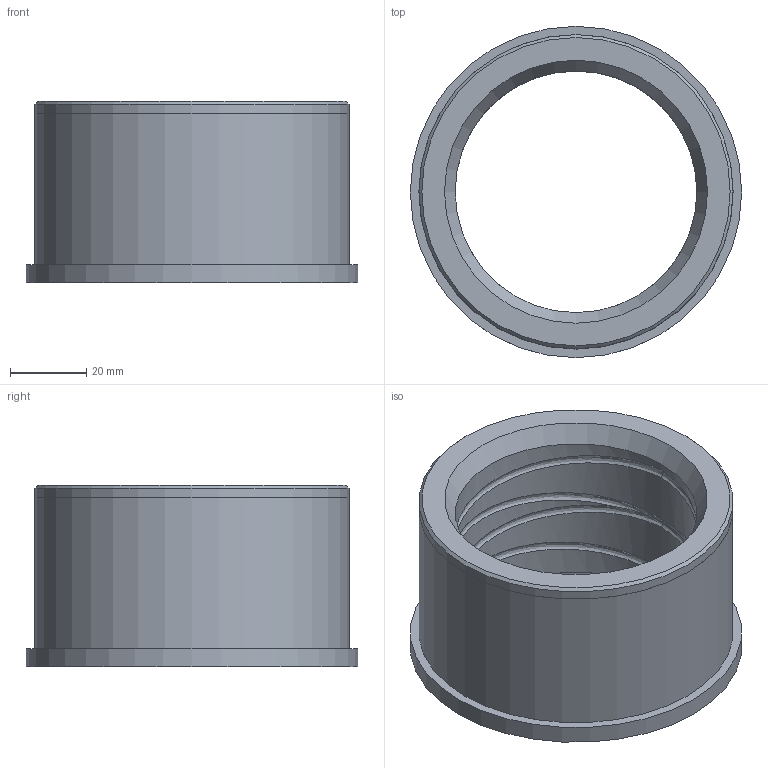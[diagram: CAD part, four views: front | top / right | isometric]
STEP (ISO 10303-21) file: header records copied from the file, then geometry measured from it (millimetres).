
FILE_DESCRIPTION (( 'STEP AP214' ), '1' );
FILE_NAME ('SBF 20-17.step', '2023-05-30T16:00:03', ( '' ), ( '' ), 'SwSTEP 2.0', 'SolidWorks 2017', '' );
FILE_SCHEMA (( 'AUTOMOTIVE_DESIGN' ));
Length unit declared in the file: inch
Products named in the file (1): SBF 20-17
Bounding box: 87.05 x 87.05 x 47.62 mm (x, y, z)
Volume: 104587.8 mm3; surface area: 27043.7 mm2
Topology: 1 solids, 1 shells, 23 faces, 49 edges, 30 vertices
Faces by surface type: cylinder 8, bspline 8, plane 4, cone 3
Full cylindrical faces by diameter (mm): 63.513 x2, 82.525 x1, 82.563 x1, 87.046 x1
Entity records: 3218 total; most frequent: CARTESIAN_POINT 2807, ORIENTED_EDGE 82, DIRECTION 58, EDGE_CURVE 41, EDGE_LOOP 35, VERTEX_POINT 30, AXIS2_PLACEMENT_3D 29, FACE_OUTER_BOUND 28
